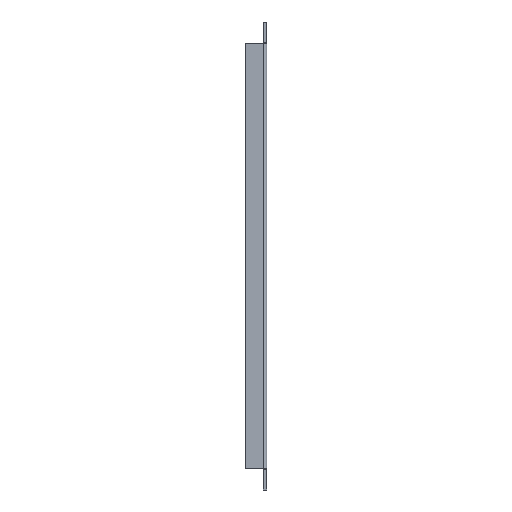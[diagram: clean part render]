
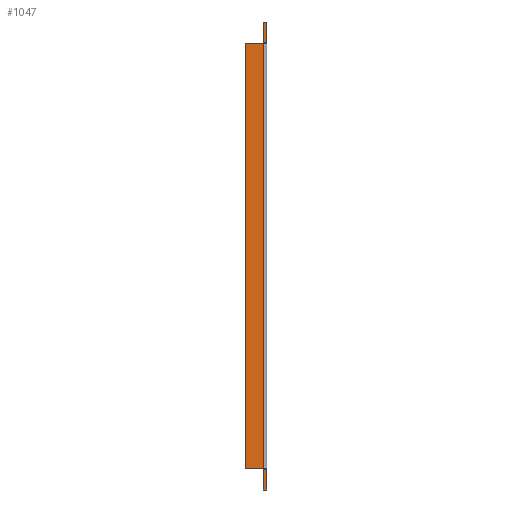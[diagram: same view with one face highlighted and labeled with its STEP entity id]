
A CAD part, front view. The second image highlights one B-rep face of the part: STEP entity #1047.
In plain terms, the highlighted planar face has unit normal (0, -1, 0).
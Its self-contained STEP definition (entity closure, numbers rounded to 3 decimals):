
#1024=AXIS2_PLACEMENT_3D('Plane Axis2P3D',#1021,#1022,#1023) ;
#64=CARTESIAN_POINT('Vertex',(-1.575,0.,0.)) ;
#67=CARTESIAN_POINT('Line Origine',(-1.575,0.,111.125)) ;
#71=CARTESIAN_POINT('Vertex',(-1.575,0.,10.16)) ;
#92=CARTESIAN_POINT('Vertex',(-1.575,0.,212.09)) ;
#95=CARTESIAN_POINT('Line Origine',(-1.575,0.,111.125)) ;
#99=CARTESIAN_POINT('Vertex',(-1.575,0.,222.25)) ;
#725=CARTESIAN_POINT('Vertex',(-1.5,0.,212.14)) ;
#728=CARTESIAN_POINT('Line Origine',(-1.5,0.,111.125)) ;
#732=CARTESIAN_POINT('Vertex',(-1.5,0.,10.11)) ;
#766=CARTESIAN_POINT('Vertex',(-0.103,0.,212.69)) ;
#770=CARTESIAN_POINT('Control Point',(-0.103,0.,212.69)) ;
#771=CARTESIAN_POINT('Control Point',(-0.433,0.,212.69)) ;
#772=CARTESIAN_POINT('Control Point',(-0.749,0.,212.574)) ;
#773=CARTESIAN_POINT('Control Point',(-1.006,0.,212.438)) ;
#774=CARTESIAN_POINT('Control Point',(-1.254,0.,212.289)) ;
#775=CARTESIAN_POINT('Control Point',(-1.5,0.,212.14)) ;
#788=CARTESIAN_POINT('Vertex',(0.,0.,212.69)) ;
#791=CARTESIAN_POINT('Line Origine',(-0.75,0.,212.69)) ;
#807=CARTESIAN_POINT('Line Origine',(-0.787,0.,222.25)) ;
#811=CARTESIAN_POINT('Vertex',(0.,0.,222.25)) ;
#833=CARTESIAN_POINT('Line Origine',(-5.867,0.,10.16)) ;
#837=CARTESIAN_POINT('Vertex',(-10.16,0.,10.16)) ;
#868=CARTESIAN_POINT('Vertex',(0.,0.,0.)) ;
#871=CARTESIAN_POINT('Line Origine',(-0.787,0.,0.)) ;
#885=CARTESIAN_POINT('Line Origine',(0.,0.,217.47)) ;
#913=CARTESIAN_POINT('Vertex',(0.,0.,9.56)) ;
#916=CARTESIAN_POINT('Line Origine',(0.,0.,4.78)) ;
#934=CARTESIAN_POINT('Line Origine',(-0.75,0.,9.56)) ;
#938=CARTESIAN_POINT('Vertex',(-0.103,0.,9.56)) ;
#959=CARTESIAN_POINT('Control Point',(-0.103,0.,9.56)) ;
#960=CARTESIAN_POINT('Control Point',(-0.433,0.,9.56)) ;
#961=CARTESIAN_POINT('Control Point',(-0.749,0.,9.676)) ;
#962=CARTESIAN_POINT('Control Point',(-1.006,0.,9.812)) ;
#963=CARTESIAN_POINT('Control Point',(-1.254,0.,9.961)) ;
#964=CARTESIAN_POINT('Control Point',(-1.5,0.,10.11)) ;
#1006=CARTESIAN_POINT('Vertex',(-10.16,0.,212.09)) ;
#1009=CARTESIAN_POINT('Line Origine',(-10.16,0.,111.125)) ;
#1021=CARTESIAN_POINT('Axis2P3D Location',(-10.16,0.,0.)) ;
#1026=CARTESIAN_POINT('Line Origine',(-5.867,0.,212.09)) ;
#68=DIRECTION('Vector Direction',(0.,0.,-1.)) ;
#96=DIRECTION('Vector Direction',(0.,0.,-1.)) ;
#729=DIRECTION('Vector Direction',(0.,0.,-1.)) ;
#792=DIRECTION('Vector Direction',(1.,0.,0.)) ;
#808=DIRECTION('Vector Direction',(-1.,0.,0.)) ;
#834=DIRECTION('Vector Direction',(-1.,0.,0.)) ;
#872=DIRECTION('Vector Direction',(-1.,0.,0.)) ;
#886=DIRECTION('Vector Direction',(0.,0.,1.)) ;
#917=DIRECTION('Vector Direction',(0.,0.,1.)) ;
#935=DIRECTION('Vector Direction',(1.,0.,0.)) ;
#1010=DIRECTION('Vector Direction',(0.,0.,1.)) ;
#1022=DIRECTION('Axis2P3D Direction',(-0.,1.,0.)) ;
#1023=DIRECTION('Axis2P3D XDirection',(1.,0.,0.)) ;
#1027=DIRECTION('Vector Direction',(-1.,0.,0.)) ;
#69=VECTOR('Line Direction',#68,1.) ;
#97=VECTOR('Line Direction',#96,1.) ;
#730=VECTOR('Line Direction',#729,1.) ;
#793=VECTOR('Line Direction',#792,1.) ;
#809=VECTOR('Line Direction',#808,1.) ;
#835=VECTOR('Line Direction',#834,1.) ;
#873=VECTOR('Line Direction',#872,1.) ;
#887=VECTOR('Line Direction',#886,1.) ;
#918=VECTOR('Line Direction',#917,1.) ;
#936=VECTOR('Line Direction',#935,1.) ;
#1011=VECTOR('Line Direction',#1010,1.) ;
#1028=VECTOR('Line Direction',#1027,1.) ;
#1032=ORIENTED_EDGE('',*,*,#734,.F.) ;
#1033=ORIENTED_EDGE('',*,*,#776,.T.) ;
#1034=ORIENTED_EDGE('',*,*,#795,.T.) ;
#1035=ORIENTED_EDGE('',*,*,#889,.T.) ;
#1036=ORIENTED_EDGE('',*,*,#813,.T.) ;
#1037=ORIENTED_EDGE('',*,*,#101,.T.) ;
#1038=ORIENTED_EDGE('',*,*,#1030,.T.) ;
#1039=ORIENTED_EDGE('',*,*,#1013,.F.) ;
#1040=ORIENTED_EDGE('',*,*,#839,.F.) ;
#1041=ORIENTED_EDGE('',*,*,#73,.F.) ;
#1042=ORIENTED_EDGE('',*,*,#875,.F.) ;
#1043=ORIENTED_EDGE('',*,*,#920,.T.) ;
#1044=ORIENTED_EDGE('',*,*,#940,.F.) ;
#1045=ORIENTED_EDGE('',*,*,#965,.T.) ;
#1047=ADVANCED_FACE('PartBody',(#1046),#1025,.F.) ;
#769=B_SPLINE_CURVE_WITH_KNOTS('',5,(#770,#771,#772,#773,#774,#775),.UNSPECIFIED.,.F.,.U.,(6,6),(0.,2.336),.UNSPECIFIED.) ;
#958=B_SPLINE_CURVE_WITH_KNOTS('',5,(#959,#960,#961,#962,#963,#964),.UNSPECIFIED.,.F.,.U.,(6,6),(0.,2.336),.UNSPECIFIED.) ;
#73=EDGE_CURVE('',#65,#72,#70,.F.) ;
#101=EDGE_CURVE('',#100,#93,#98,.T.) ;
#734=EDGE_CURVE('',#726,#733,#731,.T.) ;
#776=EDGE_CURVE('',#726,#767,#769,.F.) ;
#795=EDGE_CURVE('',#767,#789,#794,.T.) ;
#813=EDGE_CURVE('',#812,#100,#810,.T.) ;
#839=EDGE_CURVE('',#72,#838,#836,.T.) ;
#875=EDGE_CURVE('',#869,#65,#874,.T.) ;
#889=EDGE_CURVE('',#789,#812,#888,.T.) ;
#920=EDGE_CURVE('',#869,#914,#919,.T.) ;
#940=EDGE_CURVE('',#939,#914,#937,.T.) ;
#965=EDGE_CURVE('',#939,#733,#958,.T.) ;
#1013=EDGE_CURVE('',#838,#1007,#1012,.T.) ;
#1030=EDGE_CURVE('',#93,#1007,#1029,.T.) ;
#1031=EDGE_LOOP('',(#1032,#1033,#1034,#1035,#1036,#1037,#1038,#1039,#1040,#1041,#1042,#1043,#1044,#1045)) ;
#1046=FACE_OUTER_BOUND('',#1031,.T.) ;
#70=LINE('Line',#67,#69) ;
#98=LINE('Line',#95,#97) ;
#731=LINE('Line',#728,#730) ;
#794=LINE('Line',#791,#793) ;
#810=LINE('Line',#807,#809) ;
#836=LINE('Line',#833,#835) ;
#874=LINE('Line',#871,#873) ;
#888=LINE('Line',#885,#887) ;
#919=LINE('Line',#916,#918) ;
#937=LINE('Line',#934,#936) ;
#1012=LINE('Line',#1009,#1011) ;
#1029=LINE('Line',#1026,#1028) ;
#1025=PLANE('Plane',#1024) ;
#65=VERTEX_POINT('',#64) ;
#72=VERTEX_POINT('',#71) ;
#93=VERTEX_POINT('',#92) ;
#100=VERTEX_POINT('',#99) ;
#726=VERTEX_POINT('',#725) ;
#733=VERTEX_POINT('',#732) ;
#767=VERTEX_POINT('',#766) ;
#789=VERTEX_POINT('',#788) ;
#812=VERTEX_POINT('',#811) ;
#838=VERTEX_POINT('',#837) ;
#869=VERTEX_POINT('',#868) ;
#914=VERTEX_POINT('',#913) ;
#939=VERTEX_POINT('',#938) ;
#1007=VERTEX_POINT('',#1006) ;
